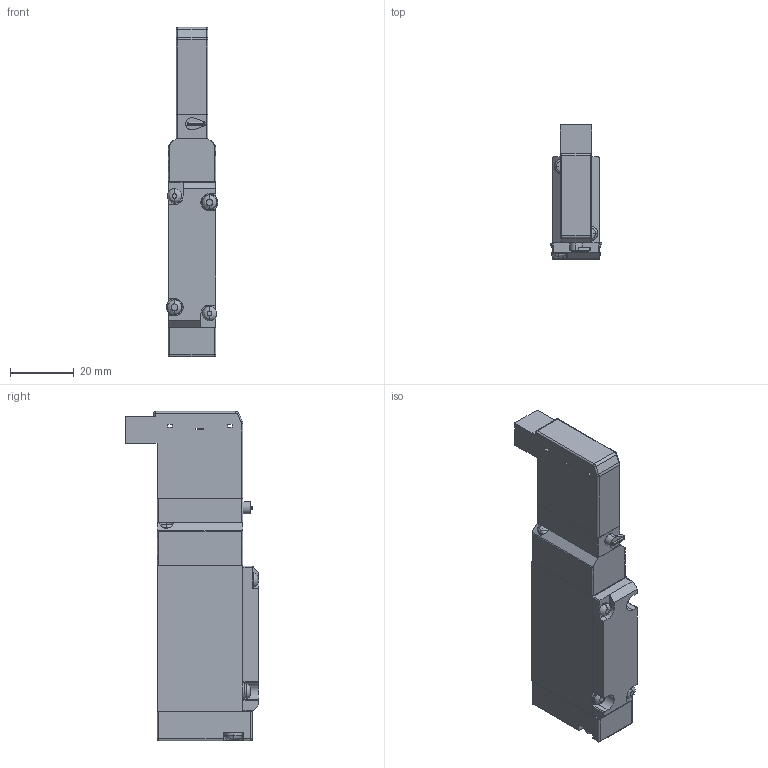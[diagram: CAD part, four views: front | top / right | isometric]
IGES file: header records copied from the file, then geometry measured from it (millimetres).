
Start section: ------------------------------------------------------------------------
Global section: file name: D:\ICADMX\tmp\trans3d_spg\CVICAD02.7120.F15T0-R-A1_16707.igs; native system: spGate; preprocessor: ver12.6.6; author: Unknown; organization: Unknown; date: 210712.184823; units: millimetre
Bounding box: 16.2 x 42 x 103.5 mm (x, y, z)
Volume: 40641.1 mm3; surface area: 15397.8 mm2
Topology: 6 solids, 6 shells, 252 faces, 628 edges, 389 vertices
Faces by surface type: bspline 252
